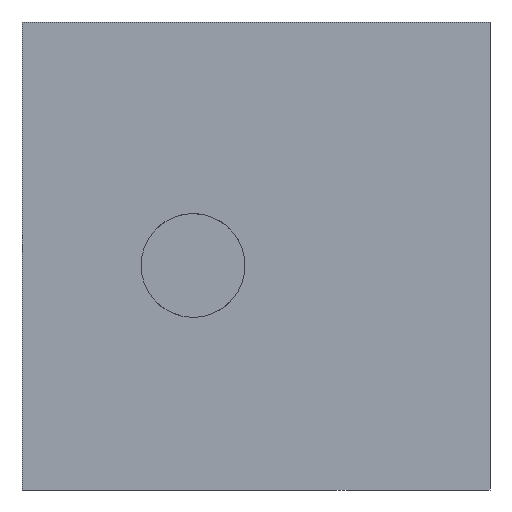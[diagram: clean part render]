
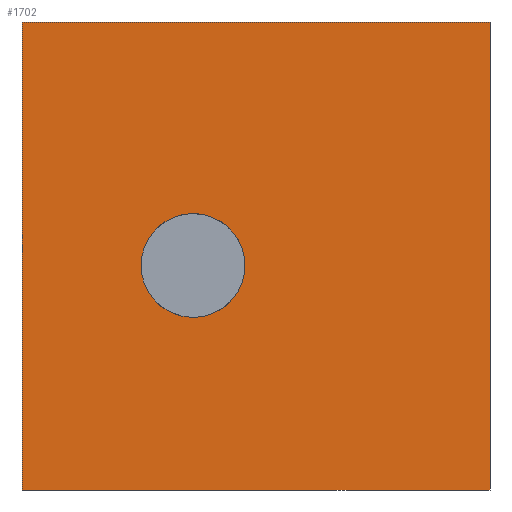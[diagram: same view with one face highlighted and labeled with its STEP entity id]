
A CAD part, front view. The second image highlights one B-rep face of the part: STEP entity #1702.
In plain terms, the highlighted planar face has unit normal (0, -1, 0).
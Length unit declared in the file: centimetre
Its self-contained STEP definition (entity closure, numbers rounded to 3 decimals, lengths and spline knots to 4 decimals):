
#12 = DIRECTION ( 'NONE',  ( 0., 0., 1. ) ) ;
#28 = CARTESIAN_POINT ( 'NONE',  ( 0., 0., 1000. ) ) ;
#59 = CARTESIAN_POINT ( 'NONE',  ( 1000., 0., 1000. ) ) ;
#72 = CARTESIAN_POINT ( 'NONE',  ( 0., 0., 0. ) ) ;
#98 = VERTEX_POINT ( 'NONE', #894 ) ;
#140 = ORIENTED_EDGE ( 'NONE', *, *, #1630, .F. ) ;
#141 = LINE ( 'NONE', #1204, #775 ) ;
#145 = CARTESIAN_POINT ( 'NONE',  ( 0., 0., 0. ) ) ;
#171 = VECTOR ( 'NONE', #172, 100. ) ;
#172 = DIRECTION ( 'NONE',  ( 0., 0., -1. ) ) ;
#222 = VERTEX_POINT ( 'NONE', #72 ) ;
#237 = VERTEX_POINT ( 'NONE', #1172 ) ;
#275 = CARTESIAN_POINT ( 'NONE',  ( 0., 0., 1000. ) ) ;
#299 = ORIENTED_EDGE ( 'NONE', *, *, #809, .T. ) ;
#397 = VECTOR ( 'NONE', #685, 100. ) ;
#437 = EDGE_CURVE ( 'NONE', #98, #222, #708, .T. ) ;
#449 = VECTOR ( 'NONE', #590, 100. ) ;
#474 = CARTESIAN_POINT ( 'NONE',  ( 1000., 0., 1000. ) ) ;
#489 = CARTESIAN_POINT ( 'NONE',  ( 1000., 0., 0. ) ) ;
#506 = EDGE_CURVE ( 'NONE', #957, #1074, #757, .T. ) ;
#585 = CIRCLE ( 'NONE', #944, 110.9899 ) ;
#590 = DIRECTION ( 'NONE',  ( 0., 0., -1. ) ) ;
#685 = DIRECTION ( 'NONE',  ( 1., 0., 0. ) ) ;
#708 = LINE ( 'NONE', #28, #171 ) ;
#721 = CIRCLE ( 'NONE', #1716, 110.9899 ) ;
#757 = LINE ( 'NONE', #474, #449 ) ;
#775 = VECTOR ( 'NONE', #1327, 100. ) ;
#809 = EDGE_CURVE ( 'NONE', #222, #1074, #819, .T. ) ;
#819 = LINE ( 'NONE', #145, #397 ) ;
#820 = ORIENTED_EDGE ( 'NONE', *, *, #1530, .F. ) ;
#829 = ORIENTED_EDGE ( 'NONE', *, *, #506, .F. ) ;
#894 = CARTESIAN_POINT ( 'NONE',  ( 0., 0., 1000. ) ) ;
#944 = AXIS2_PLACEMENT_3D ( 'NONE', #1451, #1310, #1289 ) ;
#957 = VERTEX_POINT ( 'NONE', #59 ) ;
#982 = DIRECTION ( 'NONE',  ( 0., -1., 0. ) ) ;
#1016 = EDGE_LOOP ( 'NONE', ( #299, #829, #140, #1017 ) ) ;
#1017 = ORIENTED_EDGE ( 'NONE', *, *, #437, .T. ) ;
#1074 = VERTEX_POINT ( 'NONE', #489 ) ;
#1103 = EDGE_LOOP ( 'NONE', ( #1311, #820 ) ) ;
#1172 = CARTESIAN_POINT ( 'NONE',  ( 365.4833, 0., 590.7232 ) ) ;
#1181 = DIRECTION ( 'NONE',  ( 0., 1., 0. ) ) ;
#1204 = CARTESIAN_POINT ( 'NONE',  ( 0., 0., 1000. ) ) ;
#1289 = DIRECTION ( 'NONE',  ( 0., 0., -1. ) ) ;
#1310 = DIRECTION ( 'NONE',  ( 0., -1., 0. ) ) ;
#1311 = ORIENTED_EDGE ( 'NONE', *, *, #1425, .F. ) ;
#1315 = VERTEX_POINT ( 'NONE', #1406 ) ;
#1327 = DIRECTION ( 'NONE',  ( 1., 0., 0. ) ) ;
#1353 = FACE_BOUND ( 'NONE', #1103, .T. ) ;
#1384 = CARTESIAN_POINT ( 'NONE',  ( 365.4833, 0., 479.7332 ) ) ;
#1400 = DIRECTION ( 'NONE',  ( 0., 0., -1. ) ) ;
#1406 = CARTESIAN_POINT ( 'NONE',  ( 365.4833, 0., 368.7433 ) ) ;
#1425 = EDGE_CURVE ( 'NONE', #1315, #237, #721, .T. ) ;
#1451 = CARTESIAN_POINT ( 'NONE',  ( 365.4833, 0., 479.7332 ) ) ;
#1524 = AXIS2_PLACEMENT_3D ( 'NONE', #275, #1181, #12 ) ;
#1530 = EDGE_CURVE ( 'NONE', #237, #1315, #585, .T. ) ;
#1590 = FACE_OUTER_BOUND ( 'NONE', #1016, .T. ) ;
#1630 = EDGE_CURVE ( 'NONE', #98, #957, #141, .T. ) ;
#1702 = ADVANCED_FACE ( 'NONE', ( #1353, #1590 ), #1733, .F. ) ;
#1716 = AXIS2_PLACEMENT_3D ( 'NONE', #1384, #982, #1400 ) ;
#1733 = PLANE ( 'NONE',  #1524 ) ;
